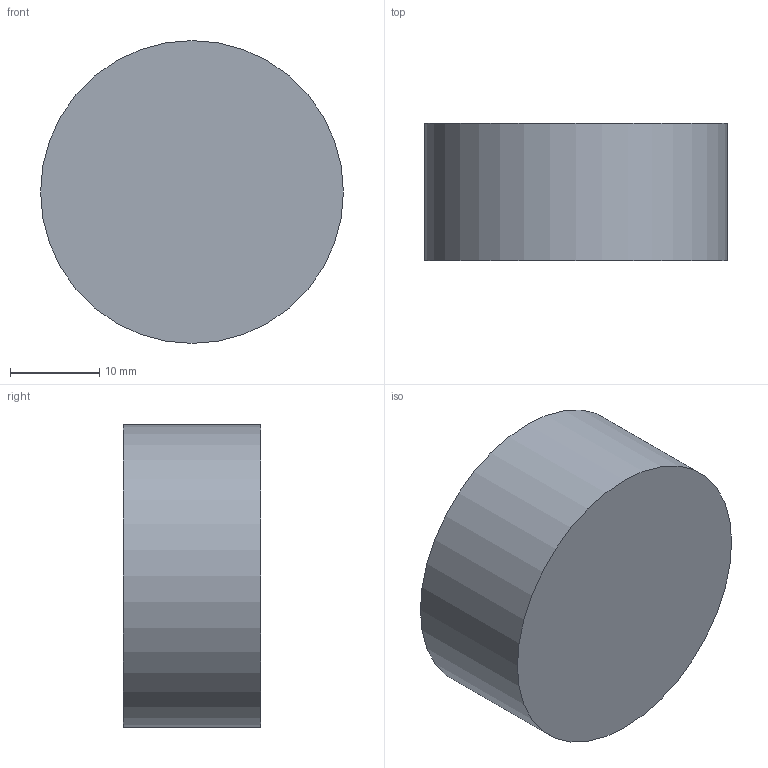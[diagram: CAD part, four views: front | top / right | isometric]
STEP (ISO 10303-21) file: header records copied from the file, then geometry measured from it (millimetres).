
FILE_DESCRIPTION(('Open CASCADE Model'),'2;1');
FILE_NAME('Open CASCADE Shape Model','2026-10-13T11:47:37',('Author'),( 'Open CASCADE'),'Open CASCADE STEP processor 7.8','Open CASCADE 7.8' ,'Unknown');
FILE_SCHEMA(('AUTOMOTIVE_DESIGN { 1 0 10303 214 1 1 1 1 }'));
Length unit declared in the file: millimetre
Products named in the file (1): Open CASCADE STEP translator 7.8 46
Bounding box: 34 x 15.4 x 34 mm (x, y, z)
Volume: 13982 mm3; surface area: 3460.8 mm2
Topology: 1 solids, 1 shells, 3 faces, 3 edges, 2 vertices
Faces by surface type: plane 2, cylinder 1
Full cylindrical faces by diameter (mm): 34 x1
Entity records: 108 total; most frequent: DIRECTION 19, CARTESIAN_POINT 15, AXIS2_PLACEMENT_3D 6, ORIENTED_EDGE 6, PCURVE 6, DEFINITIONAL_REPRESENTATION 6, LINE 5, VECTOR 5
